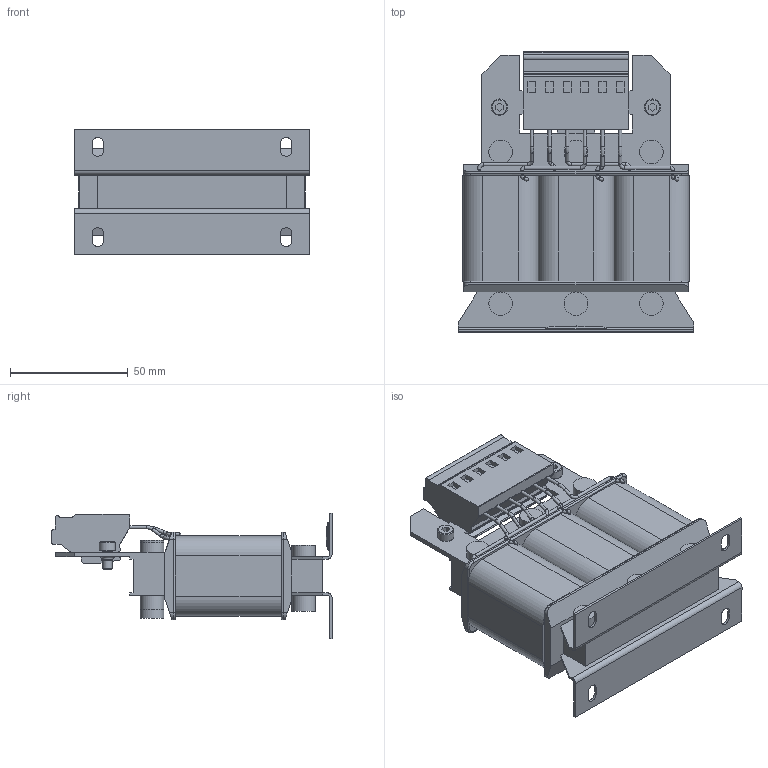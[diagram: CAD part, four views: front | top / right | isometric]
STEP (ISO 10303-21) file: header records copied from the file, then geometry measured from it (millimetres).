
FILE_DESCRIPTION (( 'STEP AP214' ), '1' );
FILE_NAME ('05Z1B03-1000.STEP', '2022-04-07T09:45:49', ( '' ), ( '' ), 'SwSTEP 2.0', 'SolidWorks 2019', '' );
FILE_SCHEMA (( 'AUTOMOTIVE_DESIGN' ));
Length unit declared in the file: millimetre
Products named in the file (1): 05Z1B03-1000
Bounding box: 100 x 118.95 x 53.3 mm (x, y, z)
Volume: 241240.4 mm3; surface area: 48294.9 mm2
Topology: 1 solids, 1 shells, 404 faces, 1076 edges, 698 vertices
Faces by surface type: plane 217, cylinder 121, torus 40, bspline 22, cone 4
Full cylindrical faces by diameter (mm): 1.4 x33, 4 x4, 4.78 x2, 7 x2, 10 x12
Entity records: 13382 total; most frequent: CARTESIAN_POINT 3774, ORIENTED_EDGE 1916, DIRECTION 1797, EDGE_CURVE 958, VERTEX_POINT 669, AXIS2_PLACEMENT_3D 614, LINE 569, VECTOR 569
